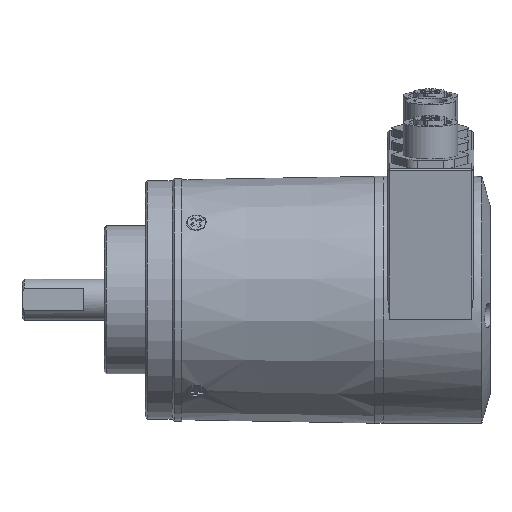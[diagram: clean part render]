
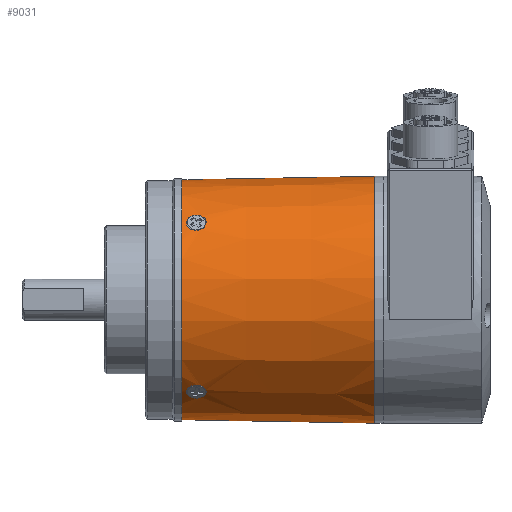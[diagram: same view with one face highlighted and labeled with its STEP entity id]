
A CAD part, left-side view. The second image highlights one B-rep face of the part: STEP entity #9031.
In plain terms, the highlighted conical face has half-angle 1 degrees and reference radius 30 mm.
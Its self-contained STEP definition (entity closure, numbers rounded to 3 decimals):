
#67=B_SPLINE_CURVE_WITH_KNOTS('',3,(#15507,#15508,#15509,#15510,#15511,
#15512,#15513),.UNSPECIFIED.,.F.,.F.,(4,1,1,1,4),(0.,0.25,0.5,0.75,1.),
 .UNSPECIFIED.);
#71=B_SPLINE_CURVE_WITH_KNOTS('',3,(#15578,#15579,#15580,#15581),
 .UNSPECIFIED.,.F.,.F.,(4,4),(0.,1.),.UNSPECIFIED.);
#72=B_SPLINE_CURVE_WITH_KNOTS('',3,(#15583,#15584,#15585,#15586,#15587,
#15588,#15589),.UNSPECIFIED.,.F.,.F.,(4,1,1,1,4),(0.,0.25,0.5,0.75,1.),
 .UNSPECIFIED.);
#76=B_SPLINE_CURVE_WITH_KNOTS('',3,(#15655,#15656,#15657,#15658,#15659,
#15660,#15661),.UNSPECIFIED.,.F.,.F.,(4,1,1,1,4),(0.,0.25,0.5,0.75,1.),
 .UNSPECIFIED.);
#79=B_SPLINE_CURVE_WITH_KNOTS('',3,(#15729,#15730,#15731,#15732,#15733,
#15734,#15735),.UNSPECIFIED.,.F.,.F.,(4,1,1,1,4),(0.,0.25,0.5,0.75,1.),
 .UNSPECIFIED.);
#80=B_SPLINE_CURVE_WITH_KNOTS('',3,(#15737,#15738,#15739,#15740),
 .UNSPECIFIED.,.F.,.F.,(4,4),(0.,1.),.UNSPECIFIED.);
#81=B_SPLINE_CURVE_WITH_KNOTS('',3,(#15873,#15874,#15875,#15876),
 .UNSPECIFIED.,.F.,.F.,(4,4),(0.,1.),.UNSPECIFIED.);
#82=B_SPLINE_CURVE_WITH_KNOTS('',3,(#15878,#15879,#15880,#15881,#15882,
#15883,#15884),.UNSPECIFIED.,.F.,.F.,(4,1,1,1,4),(0.,0.25,0.5,0.75,1.),
 .UNSPECIFIED.);
#83=B_SPLINE_CURVE_WITH_KNOTS('',3,(#15885,#15886,#15887,#15888,#15889,
#15890,#15891),.UNSPECIFIED.,.F.,.F.,(4,1,1,1,4),(0.,0.25,0.5,0.75,1.),
 .UNSPECIFIED.);
#84=B_SPLINE_CURVE_WITH_KNOTS('',3,(#15893,#15894,#15895,#15896),
 .UNSPECIFIED.,.F.,.F.,(4,4),(0.,1.),.UNSPECIFIED.);
#85=B_SPLINE_CURVE_WITH_KNOTS('',3,(#15897,#15898,#15899,#15900,#15901,
#15902,#15903),.UNSPECIFIED.,.F.,.F.,(4,1,1,1,4),(0.,0.25,0.5,0.75,1.),
 .UNSPECIFIED.);
#86=B_SPLINE_CURVE_WITH_KNOTS('',3,(#15904,#15905,#15906,#15907,#15908,
#15909,#15910),.UNSPECIFIED.,.F.,.F.,(4,1,1,1,4),(0.,0.25,0.5,0.75,1.),
 .UNSPECIFIED.);
#1059=CIRCLE('',#10180,30.);
#1061=CIRCLE('',#10183,29.181);
#3300=ORIENTED_EDGE('',*,*,#4524,.T.);
#3301=ORIENTED_EDGE('',*,*,#4523,.T.);
#3302=ORIENTED_EDGE('',*,*,#4589,.T.);
#3303=ORIENTED_EDGE('',*,*,#4590,.T.);
#3304=ORIENTED_EDGE('',*,*,#4580,.T.);
#3305=ORIENTED_EDGE('',*,*,#4582,.F.);
#3306=ORIENTED_EDGE('',*,*,#4513,.T.);
#3307=ORIENTED_EDGE('',*,*,#4512,.T.);
#3308=ORIENTED_EDGE('',*,*,#4591,.T.);
#3309=ORIENTED_EDGE('',*,*,#4592,.T.);
#3310=ORIENTED_EDGE('',*,*,#4593,.T.);
#3311=ORIENTED_EDGE('',*,*,#4507,.T.);
#3312=ORIENTED_EDGE('',*,*,#4594,.T.);
#3313=ORIENTED_EDGE('',*,*,#4518,.T.);
#4507=EDGE_CURVE('',#5412,#5415,#67,.T.);
#4512=EDGE_CURVE('',#5421,#5420,#71,.T.);
#4513=EDGE_CURVE('',#5417,#5421,#72,.T.);
#4518=EDGE_CURVE('',#5423,#5426,#76,.T.);
#4523=EDGE_CURVE('',#5432,#5431,#79,.T.);
#4524=EDGE_CURVE('',#5428,#5432,#80,.T.);
#4580=EDGE_CURVE('',#5474,#5474,#1059,.T.);
#4582=EDGE_CURVE('',#5476,#5476,#1061,.T.);
#4589=EDGE_CURVE('',#5431,#5480,#81,.T.);
#4590=EDGE_CURVE('',#5480,#5428,#82,.T.);
#4591=EDGE_CURVE('',#5420,#5481,#83,.T.);
#4592=EDGE_CURVE('',#5481,#5417,#84,.T.);
#4593=EDGE_CURVE('',#5415,#5412,#85,.T.);
#4594=EDGE_CURVE('',#5426,#5423,#86,.T.);
#5412=VERTEX_POINT('',#15477);
#5415=VERTEX_POINT('',#15506);
#5417=VERTEX_POINT('',#15555);
#5420=VERTEX_POINT('',#15577);
#5421=VERTEX_POINT('',#15582);
#5423=VERTEX_POINT('',#15631);
#5426=VERTEX_POINT('',#15654);
#5428=VERTEX_POINT('',#15700);
#5431=VERTEX_POINT('',#15728);
#5432=VERTEX_POINT('',#15736);
#5474=VERTEX_POINT('',#15855);
#5476=VERTEX_POINT('',#15860);
#5480=VERTEX_POINT('',#15877);
#5481=VERTEX_POINT('',#15892);
#7528=EDGE_LOOP('',(#3300,#3301,#3302,#3303));
#7529=EDGE_LOOP('',(#3304));
#7530=EDGE_LOOP('',(#3305));
#7531=EDGE_LOOP('',(#3306,#3307,#3308,#3309));
#7532=EDGE_LOOP('',(#3310,#3311));
#7533=EDGE_LOOP('',(#3312,#3313));
#8375=FACE_BOUND('',#7528,.T.);
#8376=FACE_BOUND('',#7529,.T.);
#8377=FACE_BOUND('',#7530,.T.);
#8378=FACE_BOUND('',#7531,.T.);
#8379=FACE_BOUND('',#7532,.T.);
#8380=FACE_BOUND('',#7533,.T.);
#8517=CONICAL_SURFACE('',#10192,30.,0.017);
#9031=ADVANCED_FACE('',(#8375,#8376,#8377,#8378,#8379,#8380),#8517,.T.);
#10180=AXIS2_PLACEMENT_3D('',#15854,#12806,#12807);
#10183=AXIS2_PLACEMENT_3D('',#15859,#12812,#12813);
#10192=AXIS2_PLACEMENT_3D('',#15872,#12830,#12831);
#12806=DIRECTION('',(0.,1.,0.));
#12807=DIRECTION('',(-0.643,0.,-0.766));
#12812=DIRECTION('',(0.,1.,0.));
#12813=DIRECTION('',(-0.643,0.,-0.766));
#12830=DIRECTION('',(0.,-1.,0.));
#12831=DIRECTION('',(-0.643,0.,-0.766));
#15477=CARTESIAN_POINT('',(24.769,7.011,-30.014));
#15506=CARTESIAN_POINT('',(27.388,4.282,-26.966));
#15507=CARTESIAN_POINT('',(24.769,7.011,-30.014));
#15508=CARTESIAN_POINT('',(24.52,6.496,-30.285));
#15509=CARTESIAN_POINT('',(24.329,5.178,-30.504));
#15510=CARTESIAN_POINT('',(25.147,3.474,-29.729));
#15511=CARTESIAN_POINT('',(26.49,3.044,-28.209));
#15512=CARTESIAN_POINT('',(27.179,3.769,-27.269));
#15513=CARTESIAN_POINT('',(27.388,4.282,-26.966));
#15555=CARTESIAN_POINT('',(-16.316,7.366,-30.985));
#15577=CARTESIAN_POINT('',(-13.752,3.928,-33.215));
#15578=CARTESIAN_POINT('',(-15.092,3.259,-32.17));
#15579=CARTESIAN_POINT('',(-14.613,3.26,-32.573));
#15580=CARTESIAN_POINT('',(-14.119,3.504,-32.951));
#15581=CARTESIAN_POINT('',(-13.752,3.928,-33.215));
#15582=CARTESIAN_POINT('',(-15.092,3.259,-32.17));
#15583=CARTESIAN_POINT('',(-16.316,7.366,-30.985));
#15584=CARTESIAN_POINT('',(-16.575,7.037,-30.749));
#15585=CARTESIAN_POINT('',(-16.934,6.17,-30.414));
#15586=CARTESIAN_POINT('',(-16.852,4.697,-30.533));
#15587=CARTESIAN_POINT('',(-16.187,3.552,-31.21));
#15588=CARTESIAN_POINT('',(-15.464,3.259,-31.858));
#15589=CARTESIAN_POINT('',(-15.092,3.259,-32.17));
#15631=CARTESIAN_POINT('',(-19.89,7.011,7.46));
#15654=CARTESIAN_POINT('',(-17.344,4.282,10.569));
#15655=CARTESIAN_POINT('',(-19.89,7.011,7.46));
#15656=CARTESIAN_POINT('',(-19.666,7.527,7.752));
#15657=CARTESIAN_POINT('',(-18.958,8.251,8.676));
#15658=CARTESIAN_POINT('',(-17.624,7.818,10.207));
#15659=CARTESIAN_POINT('',(-16.853,6.113,11.019));
#15660=CARTESIAN_POINT('',(-17.082,4.795,10.827));
#15661=CARTESIAN_POINT('',(-17.344,4.282,10.569));
#15700=CARTESIAN_POINT('',(21.175,7.366,13.695));
#15728=CARTESIAN_POINT('',(23.816,3.928,11.557));
#15729=CARTESIAN_POINT('',(22.501,8.035,12.631));
#15730=CARTESIAN_POINT('',(22.874,8.035,12.319));
#15731=CARTESIAN_POINT('',(23.603,7.742,11.678));
#15732=CARTESIAN_POINT('',(24.295,6.594,11.031));
#15733=CARTESIAN_POINT('',(24.408,5.123,10.954));
#15734=CARTESIAN_POINT('',(24.067,4.256,11.313));
#15735=CARTESIAN_POINT('',(23.816,3.928,11.557));
#15736=CARTESIAN_POINT('',(22.501,8.035,12.631));
#15737=CARTESIAN_POINT('',(21.175,7.366,13.695));
#15738=CARTESIAN_POINT('',(21.534,7.792,13.418));
#15739=CARTESIAN_POINT('',(22.021,8.035,13.034));
#15740=CARTESIAN_POINT('',(22.501,8.035,12.631));
#15854=CARTESIAN_POINT('',(3.731,-37.765,-9.738));
#15855=CARTESIAN_POINT('',(-15.552,-37.765,-32.719));
#15859=CARTESIAN_POINT('',(3.731,9.135,-9.738));
#15860=CARTESIAN_POINT('',(-15.026,9.135,-32.092));
#15872=CARTESIAN_POINT('',(3.731,-37.765,-9.738));
#15873=CARTESIAN_POINT('',(23.816,3.928,11.557));
#15874=CARTESIAN_POINT('',(23.492,3.504,11.873));
#15875=CARTESIAN_POINT('',(23.033,3.26,12.293));
#15876=CARTESIAN_POINT('',(22.555,3.259,12.695));
#15877=CARTESIAN_POINT('',(22.555,3.259,12.695));
#15878=CARTESIAN_POINT('',(22.555,3.259,12.695));
#15879=CARTESIAN_POINT('',(22.182,3.259,13.007));
#15880=CARTESIAN_POINT('',(21.419,3.551,13.606));
#15881=CARTESIAN_POINT('',(20.637,4.697,14.145));
#15882=CARTESIAN_POINT('',(20.505,6.17,14.204));
#15883=CARTESIAN_POINT('',(20.897,7.036,13.909));
#15884=CARTESIAN_POINT('',(21.175,7.366,13.695));
#15885=CARTESIAN_POINT('',(-13.752,3.928,-33.215));
#15886=CARTESIAN_POINT('',(-13.468,4.256,-33.42));
#15887=CARTESIAN_POINT('',(-13.055,5.123,-33.693));
#15888=CARTESIAN_POINT('',(-13.151,6.595,-33.595));
#15889=CARTESIAN_POINT('',(-13.908,7.741,-33.026));
#15890=CARTESIAN_POINT('',(-14.667,8.036,-32.418));
#15891=CARTESIAN_POINT('',(-15.039,8.035,-32.106));
#15892=CARTESIAN_POINT('',(-15.039,8.035,-32.106));
#15893=CARTESIAN_POINT('',(-15.039,8.035,-32.106));
#15894=CARTESIAN_POINT('',(-15.543,8.034,-31.683));
#15895=CARTESIAN_POINT('',(-15.966,7.811,-31.305));
#15896=CARTESIAN_POINT('',(-16.316,7.366,-30.985));
#15897=CARTESIAN_POINT('',(27.388,4.282,-26.966));
#15898=CARTESIAN_POINT('',(27.598,4.796,-26.664));
#15899=CARTESIAN_POINT('',(27.747,6.113,-26.405));
#15900=CARTESIAN_POINT('',(27.082,7.818,-27.305));
#15901=CARTESIAN_POINT('',(25.805,8.251,-28.885));
#15902=CARTESIAN_POINT('',(25.019,7.528,-29.741));
#15903=CARTESIAN_POINT('',(24.769,7.011,-30.014));
#15904=CARTESIAN_POINT('',(-17.344,4.282,10.569));
#15905=CARTESIAN_POINT('',(-17.606,3.769,10.309));
#15906=CARTESIAN_POINT('',(-18.412,3.044,9.469));
#15907=CARTESIAN_POINT('',(-19.675,3.474,7.882));
#15908=CARTESIAN_POINT('',(-20.297,5.179,6.941));
#15909=CARTESIAN_POINT('',(-20.114,6.495,7.167));
#15910=CARTESIAN_POINT('',(-19.89,7.011,7.46));
